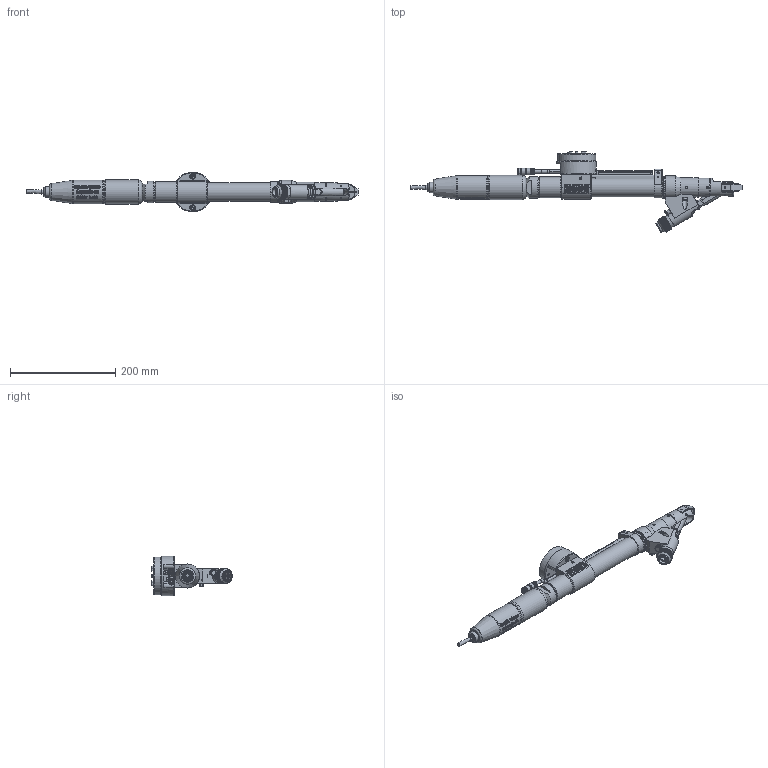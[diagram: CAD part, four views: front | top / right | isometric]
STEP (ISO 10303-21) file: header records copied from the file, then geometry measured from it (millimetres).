
FILE_DESCRIPTION(/* description */ ('© Copyright 2019 – Urheberrechtshinweis Diese CAD-Daten sind urheberrechtlich geschützt. Das Urheberrecht liegt, soweit nicht ausdrücklich anders gekennzeichnet, bei Stöger Automation GmbH. Bitte fragen Sie uns, falls Sie die CAD-Daten vervielfältigen oder','CAx-IF Rec.Pracs.---Representation and Presentation of Product Manufacturing Information (PMI)---4.0---2014-10-13'),/* implementation_level */ '2;1');
FILE_NAME(/* name */ 'H:\00_0 Arbeiten für Marketing\581200\3D_Step_automatic_screwdriver_for_screws_RSX12.stp',/* time_stamp */ '2020-04-30T10:55:47+02:00',/* author */ ('Stöger Automation GmbH'),/* organization */ ('Stöger Automation GmbH'),/* preprocessor_version */ 'ST-DEVELOPER v17',/* originating_system */ 'Autodesk Inventor 2018',/* authorisation */ '');
FILE_SCHEMA (('AP242_MANAGED_MODEL_BASED_3D_ENGINEERING_MIM_LF { 1 0 10303 442 1 1 4 }'));
Length unit declared in the file: millimetre
Products named in the file (1): 581200.ipt
Bounding box: 631.97 x 154.07 x 75 mm (x, y, z)
Volume: 457269 mm3; surface area: 260922.6 mm2
Topology: 12 solids, 35 shells, 2894 faces, 8078 edges, 5425 vertices
Faces by surface type: plane 1388, cylinder 682, bspline 513, cone 213, torus 90, sphere 8
Full cylindrical faces by diameter (mm): 1.3 x2, 1.5 x1, 2 x5, 2.459 x7, 2.5 x2, 2.53 x1, 2.6 x1, 3 x2, 3.03 x4, 3.04 x3, 3.1 x5, 3.242 x9, 3.8 x1, 4 x13, 4.134 x6, 4.2 x2, 4.5 x10, 4.917 x4, 5 x13, 5.15 x1, 5.3 x2, 5.5 x8, 6 x7, 6.02 x2, 6.1 x1, 6.2 x4, 6.5 x1, 6.6 x2, 7 x4, 7.8 x3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
Entity records: 176277 total; most frequent: CARTESIAN_POINT 102603, ORIENTED_EDGE 16086, DIRECTION 12954, EDGE_CURVE 8043, VERTEX_POINT 5429, AXIS2_PLACEMENT_3D 4662, LINE 3630, VECTOR 3630
